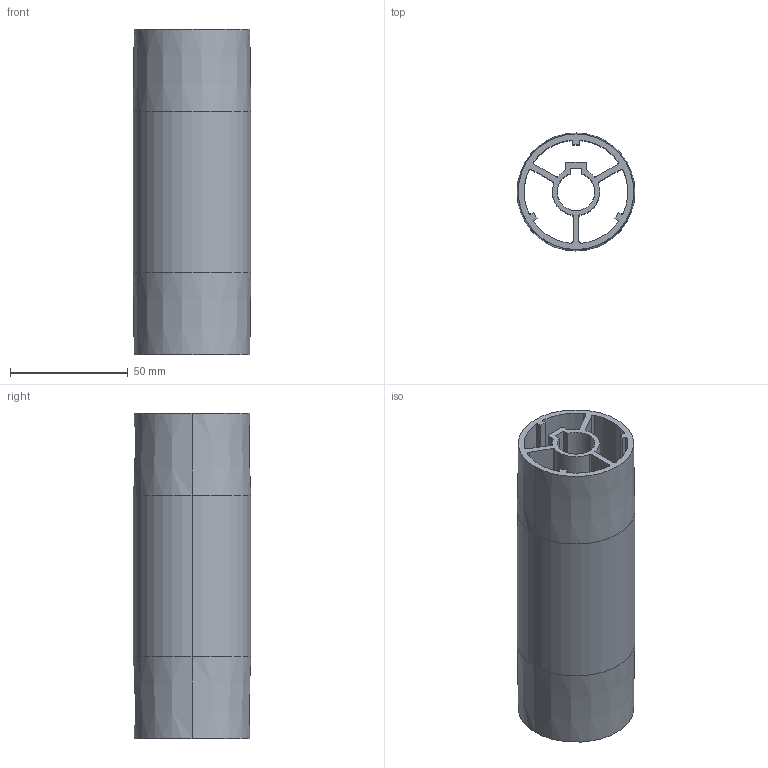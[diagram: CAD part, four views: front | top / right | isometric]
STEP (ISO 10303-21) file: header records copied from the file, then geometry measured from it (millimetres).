
FILE_DESCRIPTION (( 'STEP AP203' ), '1' );
FILE_NAME ('084.801.023.STEP', '2013-01-29T09:43:25', ( 'Alusic' ), ( 'Alusic' ), 'SwSTEP 2.0', 'SolidWorks 2011', '' );
FILE_SCHEMA (( 'CONFIG_CONTROL_DESIGN' ));
Length unit declared in the file: millimetre
Products named in the file (1): 084.801.023
Bounding box: 50 x 50 x 138 mm (x, y, z)
Volume: 91376.2 mm3; surface area: 67724.1 mm2
Topology: 1 solids, 1 shells, 77 faces, 221 edges, 146 vertices
Faces by surface type: cylinder 51, plane 22, cone 4
Entity records: 2662 total; most frequent: DIRECTION 483, CARTESIAN_POINT 445, ORIENTED_EDGE 442, EDGE_CURVE 221, AXIS2_PLACEMENT_3D 184, VERTEX_POINT 146, VECTOR 115, LINE 115
